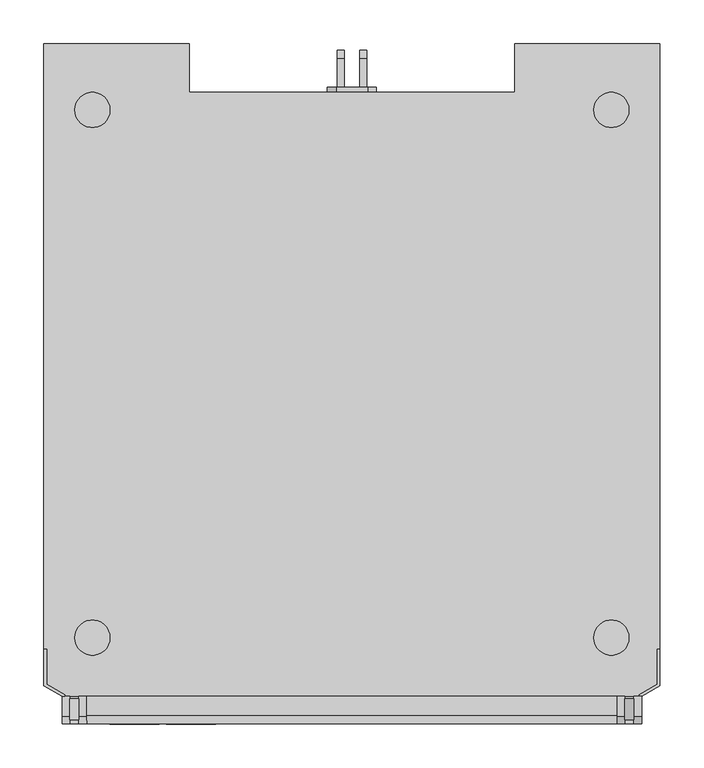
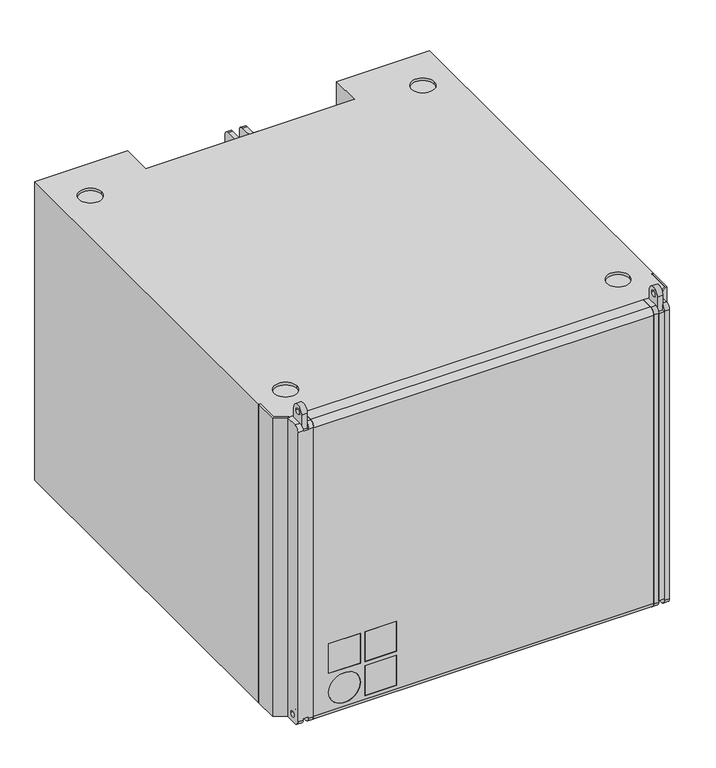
"""IFC4 building model written with IfcOpenShell, lengths in millimetres: proxy geometry, d&b SL-Series XSLi-SUB : XSLi-SUB."""

from ifc_helpers import new_model, si_unit, point, frame, frame_2d, origin, origin_with_axes, place, context, project, spatial, polyline, circle_curve, trimmed, segment, composite_curve, outline, extrude, source, transform, mapped, element, save
from ifc_brep_helpers import plane_surface, cylinder_surface, revolved_surface, advanced_brep


def communication_devices_f9809a49(model_context):
    return source(origin(), model_context, "Body", "SolidModel", [
        extrude(outline(polyline([(2810.5, -60.7494027), (2810.5, -29.2494027), (2820.5, -29.2494027), (2820.5, -60.7494027), (2810.5, -60.7494027)])), frame((0.0, 0.0, 16.6), z_axis=(0.0, 0.0, 1.0), x_axis=(1.0, 0.0, 0.0)), (0.0, 0.0, 1.0), 538.4),
        extrude(outline(composite_curve([segment(polyline([(-29.2494027, 565.0), (-29.2494027, 5.0), (-51.7494027, 5.0)]), True, "CONTINUOUS"), segment(trimmed(circle_curve(frame_2d((-51.7494027, 14.0)), 9.0), [point((-51.7494027, 5.0))], [point((-60.7494027, 14.0))], False, "CARTESIAN"), True, "CONTINUOUS"), segment(polyline([(-60.7494027, 14.0), (-60.7494027, 556.0)]), True, "CONTINUOUS"), segment(trimmed(circle_curve(frame_2d((-51.7494027, 556.0)), 9.0), [point((-60.7494027, 556.0))], [point((-51.7494027, 565.0))], False, "CARTESIAN"), True, "CONTINUOUS"), segment(polyline([(-51.7494027, 565.0), (-29.2494027, 565.0)]), True, "CONTINUOUS")], self_intersect=False)), frame((2801.5, 0.0, 0.0), z_axis=(1.0, 0.0, 0.0), x_axis=(0.0, 1.0, 0.0)), (0.0, 0.0, 1.0), 9.0),
        extrude(outline(composite_curve([segment(polyline([(-29.2494027, 565.0), (-29.2494027, 5.0), (-51.7494027, 5.0)]), True, "CONTINUOUS"), segment(trimmed(circle_curve(frame_2d((-51.7494027, 14.0)), 9.0), [point((-51.7494027, 5.0))], [point((-60.7494027, 14.0))], False, "CARTESIAN"), True, "CONTINUOUS"), segment(polyline([(-60.7494027, 14.0), (-60.7494027, 556.0)]), True, "CONTINUOUS"), segment(trimmed(circle_curve(frame_2d((-51.7494027, 556.0)), 9.0), [point((-60.7494027, 556.0))], [point((-51.7494027, 565.0))], False, "CARTESIAN"), True, "CONTINUOUS"), segment(polyline([(-51.7494027, 565.0), (-29.2494027, 565.0)]), True, "CONTINUOUS")], self_intersect=False), holes=[composite_curve([segment(trimmed(circle_curve(frame_2d((-43.9994027, 18.5163859)), 5.2), [point((-49.1994027, 18.5163859))], [point((-38.7994027, 18.5163859))], True, "CARTESIAN"), True, "CONTINUOUS"), segment(trimmed(circle_curve(frame_2d((-43.9994027, 18.5163859)), 5.2), [point((-38.7994027, 18.5163859))], [point((-49.1994027, 18.5163859))], True, "CARTESIAN"), True, "CONTINUOUS")], self_intersect=False)]), frame((2820.5, 0.0, 0.0), z_axis=(1.0, 0.0, 0.0), x_axis=(0.0, 1.0, 0.0)), (0.0, 0.0, 1.0), 9.0),
        extrude(outline(polyline([(2153.0, 24.2505973), (2153.0, -15.6816714), (2173.5, -27.5173519), (2173.5, -29.2494027), (2170.5, -29.2494027), (2150.0, -17.4137222), (2150.0, 24.2505973), (2153.0, 24.2505973)])), frame((0.0, 0.0, 5.0), z_axis=(0.0, 0.0, 1.0), x_axis=(1.0, 0.0, 0.0)), (0.0, 0.0, 1.0), 560.0),
        extrude(outline(polyline([(2847.0, 24.2505973), (2850.0, 24.2505973), (2850.0, -17.4137222), (2829.5, -29.2494027), (2826.5, -29.2494027), (2826.5, -27.5173519), (2847.0, -15.6816714), (2847.0, 24.2505973)])), frame((0.0, 0.0, 5.0), z_axis=(0.0, 0.0, 1.0), x_axis=(1.0, 0.0, 0.0)), (0.0, 0.0, 1.0), 560.0),
        extrude(outline(composite_curve([segment(trimmed(circle_curve(frame_2d((-43.9994027, 582.8033696)), 12.0), [point((-55.9994027, 582.8033696))], [point((-31.9994027, 582.8033696))], False, "CARTESIAN"), True, "CONTINUOUS"), segment(polyline([(-31.9994027, 582.8033696), (-31.9994027, 555.0), (-55.9994027, 555.0), (-55.9994027, 582.8033696)]), True, "CONTINUOUS")], self_intersect=False), holes=[composite_curve([segment(trimmed(circle_curve(frame_2d((-43.9994027, 582.8033696)), 5.15), [point((-49.1494027, 582.8033696))], [point((-38.8494027, 582.8033696))], True, "CARTESIAN"), True, "CONTINUOUS"), segment(trimmed(circle_curve(frame_2d((-43.9994027, 582.8033696)), 5.15), [point((-38.8494027, 582.8033696))], [point((-49.1494027, 582.8033696))], True, "CARTESIAN"), True, "CONTINUOUS")], self_intersect=False)]), frame((2810.5, 0.0, 0.0), z_axis=(1.0, 0.0, 0.0), x_axis=(0.0, 1.0, 0.0)), (0.0, 0.0, 1.0), 10.0),
        extrude(outline(composite_curve([segment(trimmed(circle_curve(frame_2d((-43.9994027, 582.8033696)), 12.0), [point((-55.9994027, 582.8033696))], [point((-31.9994027, 582.8033696))], False, "CARTESIAN"), True, "CONTINUOUS"), segment(polyline([(-31.9994027, 582.8033696), (-31.9994027, 555.0), (-55.9994027, 555.0), (-55.9994027, 582.8033696)]), True, "CONTINUOUS")], self_intersect=False), holes=[composite_curve([segment(trimmed(circle_curve(frame_2d((-43.9994027, 582.8033696)), 5.15), [point((-49.1494027, 582.8033696))], [point((-38.8494027, 582.8033696))], True, "CARTESIAN"), True, "CONTINUOUS"), segment(trimmed(circle_curve(frame_2d((-43.9994027, 582.8033696)), 5.15), [point((-38.8494027, 582.8033696))], [point((-49.1494027, 582.8033696))], True, "CARTESIAN"), True, "CONTINUOUS")], self_intersect=False)]), frame((2179.5, 0.0, 0.0), z_axis=(1.0, 0.0, 0.0), x_axis=(0.0, 1.0, 0.0)), (0.0, 0.0, 1.0), 10.0),
        advanced_brep(
        [(2281.0, -50.7494027, 141.5), (2225.0, -50.7494027, 141.5), (2225.0, -50.7494027, 85.5), (2281.0, -50.7494027, 85.5), (2345.0, -50.7494027, 141.5), (2289.0, -50.7494027, 141.5), (2289.0, -50.7494027, 85.5), (2345.0, -50.7494027, 85.5), (2345.0, -50.7494027, 77.5), (2289.0, -50.7494027, 77.5), (2289.0, -50.7494027, 21.5), (2345.0, -50.7494027, 21.5), (2225.0, -50.7494027, 49.5), (2281.0, -50.7494027, 49.5), (2281.0, -60.7494027, 85.5), (2281.0, -60.7494027, 141.5), (2225.0, -60.7494027, 85.5), (2225.0, -60.7494027, 141.5), (2345.0, -60.7494027, 85.5), (2345.0, -60.7494027, 141.5), (2289.0, -60.7494027, 85.5), (2289.0, -60.7494027, 141.5), (2345.0, -60.7494027, 21.5), (2345.0, -60.7494027, 77.5), (2289.0, -60.7494027, 21.5), (2289.0, -60.7494027, 77.5), (2281.0, -60.7494027, 49.5), (2225.0, -60.7494027, 49.5), (2801.5, -29.2494027, 5.0), (2801.5, -29.2494027, 565.0), (2801.5, -50.7494027, 565.0), (2801.5, -60.7494027, 555.0), (2801.5, -60.7494027, 15.0), (2801.5, -50.7494027, 5.0), (2198.5, -29.2494027, 5.0), (2198.5, -50.7494027, 5.0), (2198.5, -60.7494027, 15.0), (2198.5, -60.7494027, 555.0), (2198.5, -50.7494027, 565.0), (2198.5, -29.2494027, 565.0)],
        [
            (0, 1),
            (1, 2),
            (2, 3),
            (3, 0),
            (4, 5),
            (5, 6),
            (6, 7),
            (7, 4),
            (8, 9),
            (9, 10),
            (10, 11),
            (11, 8),
            (12, 13, circle_curve(frame((2253.0, -50.7494027, 49.5), z_axis=(0.0, -1.0, 0.0), x_axis=(1.0, 0.0, 0.0)), 28.0)),
            (13, 12, circle_curve(frame((2253.0, -50.7494027, 49.5), z_axis=(0.0, -1.0, 0.0), x_axis=(1.0, 0.0, 0.0)), 28.0)),
            (3, 14),
            (14, 15),
            (15, 0),
            (2, 16),
            (16, 14),
            (1, 17),
            (17, 16),
            (15, 17),
            (7, 18),
            (18, 19),
            (19, 4),
            (6, 20),
            (20, 18),
            (5, 21),
            (21, 20),
            (19, 21),
            (11, 22),
            (22, 23),
            (23, 8),
            (10, 24),
            (24, 22),
            (9, 25),
            (25, 24),
            (23, 25),
            (13, 26),
            (26, 27, circle_curve(frame((2253.0, -60.7494027, 49.5), z_axis=(0.0, -1.0, 0.0), x_axis=(1.0, 0.0, 0.0)), 28.0)),
            (27, 12),
            (27, 26, circle_curve(frame((2253.0, -60.7494027, 49.5), z_axis=(0.0, -1.0, 0.0), x_axis=(1.0, 0.0, 0.0)), 28.0)),
            (28, 29),
            (29, 30),
            (30, 31, circle_curve(frame((2801.5, -50.7494027, 555.0), z_axis=(1.0, 0.0, 0.0), x_axis=(0.0, 1.0, 0.0)), 10.0)),
            (31, 32),
            (32, 33, circle_curve(frame((2801.5, -50.7494027, 15.0), z_axis=(1.0, 0.0, 0.0), x_axis=(0.0, 1.0, 0.0)), 10.0)),
            (33, 28),
            (34, 35),
            (35, 36, circle_curve(frame((2198.5, -50.7494027, 15.0), z_axis=(-1.0, 0.0, 0.0), x_axis=(0.0, 1.0, 0.0)), 10.0)),
            (36, 37),
            (37, 38, circle_curve(frame((2198.5, -50.7494027, 555.0), z_axis=(-1.0, 0.0, 0.0), x_axis=(0.0, 1.0, 0.0)), 10.0)),
            (38, 39),
            (39, 34),
            (28, 34),
            (39, 29),
            (38, 30),
            (37, 31),
            (36, 32),
            (35, 33),
        ],
        [
            plane_surface(frame((2281.0, -50.7494027, 131.0), z_axis=(0.0, -1.0, 0.0), x_axis=(0.0, 0.0, -1.0))),
            plane_surface(frame((2281.0, -50.7494027, 141.5), z_axis=(-1.0, 0.0, 0.0), x_axis=(0.0, -1.0, 0.0))),
            plane_surface(frame((2281.0, -50.7494027, 85.5), z_axis=(0.0, 0.0, 1.0), x_axis=(0.0, -1.0, 0.0))),
            plane_surface(frame((2225.0, -50.7494027, 85.5), z_axis=(1.0, 0.0, 0.0), x_axis=(0.0, -1.0, 0.0))),
            plane_surface(frame((2225.0, -50.7494027, 141.5), z_axis=(0.0, 0.0, -1.0), x_axis=(0.0, -1.0, 0.0))),
            plane_surface(frame((2345.0, -50.7494027, 141.5), z_axis=(-1.0, 0.0, 0.0), x_axis=(0.0, -1.0, 0.0))),
            plane_surface(frame((2345.0, -50.7494027, 85.5), z_axis=(0.0, 0.0, 1.0), x_axis=(0.0, -1.0, 0.0))),
            plane_surface(frame((2289.0, -50.7494027, 85.5), z_axis=(1.0, 0.0, 0.0), x_axis=(0.0, -1.0, 0.0))),
            plane_surface(frame((2289.0, -50.7494027, 141.5), z_axis=(0.0, 0.0, -1.0), x_axis=(0.0, -1.0, 0.0))),
            plane_surface(frame((2345.0, -50.7494027, 77.5), z_axis=(-1.0, 0.0, 0.0), x_axis=(0.0, -1.0, 0.0))),
            plane_surface(frame((2345.0, -50.7494027, 21.5), z_axis=(0.0, 0.0, 1.0), x_axis=(0.0, -1.0, 0.0))),
            plane_surface(frame((2289.0, -50.7494027, 21.5), z_axis=(1.0, 0.0, 0.0), x_axis=(0.0, -1.0, 0.0))),
            plane_surface(frame((2289.0, -50.7494027, 77.5), z_axis=(0.0, 0.0, -1.0), x_axis=(0.0, -1.0, 0.0))),
            revolved_surface(polyline([(2281.0, -50.7494027, 49.5), (2281.0, -60.7494027, 49.5)]), (2253.0, -60.7494027, 49.5), (0.0, 1.0, 0.0)),
            plane_surface(frame((2801.5, -29.2494027, 89.9836141), z_axis=(1.0, 0.0, 0.0), x_axis=(0.0, 0.0, 1.0))),
            plane_surface(frame((2198.5, -29.2494027, 89.9836141), z_axis=(-1.0, 0.0, 0.0), x_axis=(0.0, 0.0, -1.0))),
            plane_surface(frame((2801.5, -29.2494027, 5.0), z_axis=(0.0, 1.0, 0.0), x_axis=(-1.0, 0.0, 0.0))),
            plane_surface(frame((2801.5, -29.2494027, 565.0), z_axis=(0.0, 0.0, 1.0), x_axis=(-1.0, 0.0, 0.0))),
            cylinder_surface(frame((2198.5, -50.7494027, 555.0), z_axis=(1.0, 0.0, 0.0), x_axis=(0.0, 1.0, 0.0)), 10.0),
            plane_surface(frame((2801.5, -60.7494027, 555.0), z_axis=(0.0, -1.0, 0.0), x_axis=(-1.0, 0.0, 0.0))),
            cylinder_surface(frame((2198.5, -50.7494027, 15.0), z_axis=(1.0, 0.0, 0.0), x_axis=(0.0, 1.0, 0.0)), 10.0),
            plane_surface(frame((2801.5, -50.7494027, 5.0), z_axis=(0.0, 0.0, -1.0), x_axis=(-1.0, 0.0, 0.0))),
        ],
        [
            (0, [[1, 2, 3, 4]]),
            (0, [[5, 6, 7, 8]]),
            (0, [[9, 10, 11, 12]]),
            (0, [[13, 14]]),
            (1, [[-4, 15, 16, 17]]),
            (2, [[-3, 18, 19, -15]]),
            (3, [[-2, 20, 21, -18]]),
            (4, [[-1, -17, 22, -20]]),
            (5, [[-8, 23, 24, 25]]),
            (6, [[-7, 26, 27, -23]]),
            (7, [[-6, 28, 29, -26]]),
            (8, [[-5, -25, 30, -28]]),
            (9, [[-12, 31, 32, 33]]),
            (10, [[-11, 34, 35, -31]]),
            (11, [[-10, 36, 37, -34]]),
            (12, [[-9, -33, 38, -36]]),
            (13, [[-14, 39, 40, 41]]),
            (13, [[-13, -41, 42, -39]]),
            (14, [[43, 44, 45, 46, 47, 48]]),
            (15, [[49, 50, 51, 52, 53, 54]]),
            (16, [[-43, 55, -54, 56]]),
            (17, [[-44, -56, -53, 57]]),
            (18, [[-45, -57, -52, 58]]),
            (19, [[-46, -58, -51, 59], [-16, -19, -21, -22], [-24, -27, -29, -30], [-32, -35, -37, -38], [-40, -42]]),
            (20, [[-47, -59, -50, 60]]),
            (21, [[-48, -60, -49, -55]]),
        ],
    ),
        advanced_brep(
        [(2198.5, -29.2494027, 565.0), (2198.5, -51.7494027, 565.0), (2198.5, -60.7494027, 556.0), (2198.5, -60.7494027, 14.0), (2198.5, -51.7494027, 5.0), (2198.5, -29.2494027, 5.0), (2189.5, -29.2494027, 5.0), (2189.5, -51.7494027, 5.0), (2189.5, -60.7494027, 14.0), (2189.5, -60.7494027, 16.6), (2189.5, -29.2494027, 16.6), (2189.5, -60.7494027, 556.0), (2189.5, -51.7494027, 565.0), (2189.5, -29.2494027, 565.0), (2189.5, -29.2494027, 555.0), (2189.5, -60.7494027, 555.0), (2179.5, -60.7494027, 555.0), (2179.5, -60.7494027, 556.0), (2170.5, -60.7494027, 556.0), (2170.5, -60.7494027, 14.0), (2179.5, -60.7494027, 14.0), (2179.5, -60.7494027, 16.6), (2179.5, -29.2494027, 16.6), (2179.5, -29.2494027, 5.0), (2170.5, -29.2494027, 5.0), (2170.5, -29.2494027, 565.0), (2179.5, -29.2494027, 565.0), (2179.5, -29.2494027, 555.0), (2179.5, -48.8333933, 16.6), (2179.5, -39.1654121, 16.6), (2179.5, -51.7494027, 565.0), (2179.5, -51.7494027, 5.0), (2170.5, -51.7494027, 5.0), (2170.5, -51.7494027, 565.0), (2170.5, -49.1994027, 18.5163859), (2170.5, -38.7994027, 18.5163859), (2179.5, -38.7994027, 18.5163859), (2179.5, -49.1994027, 18.5163859)],
        [
            (0, 1),
            (1, 2, circle_curve(frame((2198.5, -51.7494027, 556.0), z_axis=(1.0, 0.0, 0.0), x_axis=(0.0, 1.0, 0.0)), 9.0)),
            (2, 3),
            (3, 4, circle_curve(frame((2198.5, -51.7494027, 14.0), z_axis=(1.0, 0.0, 0.0), x_axis=(0.0, 1.0, 0.0)), 9.0)),
            (4, 5),
            (5, 0),
            (6, 7),
            (7, 8, circle_curve(frame((2189.5, -51.7494027, 14.0), z_axis=(-1.0, 0.0, 0.0), x_axis=(0.0, 1.0, 0.0)), 9.0)),
            (8, 9),
            (9, 10),
            (10, 6),
            (11, 12, circle_curve(frame((2189.5, -51.7494027, 556.0), z_axis=(-1.0, 0.0, 0.0), x_axis=(0.0, 1.0, 0.0)), 9.0)),
            (12, 13),
            (13, 14),
            (14, 15),
            (15, 11),
            (0, 13),
            (12, 1),
            (11, 2),
            (15, 16),
            (16, 17),
            (17, 18),
            (18, 19),
            (19, 20),
            (20, 21),
            (21, 9),
            (8, 3),
            (7, 4),
            (6, 5),
            (10, 22),
            (22, 23),
            (23, 24),
            (24, 25),
            (25, 26),
            (26, 27),
            (27, 14),
            (27, 16),
            (21, 28),
            (28, 29),
            (29, 22),
            (26, 30),
            (30, 17, circle_curve(frame((2179.5, -51.7494027, 556.0), z_axis=(1.0, 0.0, 0.0), x_axis=(0.0, 1.0, 0.0)), 9.0)),
            (20, 31, circle_curve(frame((2179.5, -51.7494027, 14.0), z_axis=(1.0, 0.0, 0.0), x_axis=(0.0, 1.0, 0.0)), 9.0)),
            (31, 23),
            (29, 28, circle_curve(frame((2179.5, -43.9994027, 18.5163859), z_axis=(-1.0, 0.0, 0.0), x_axis=(0.0, 1.0, 0.0)), 5.2)),
            (24, 32),
            (32, 19, circle_curve(frame((2170.5, -51.7494027, 14.0), z_axis=(-1.0, 0.0, 0.0), x_axis=(0.0, 1.0, 0.0)), 9.0)),
            (18, 33, circle_curve(frame((2170.5, -51.7494027, 556.0), z_axis=(-1.0, 0.0, 0.0), x_axis=(0.0, 1.0, 0.0)), 9.0)),
            (33, 25),
            (34, 35, circle_curve(frame((2170.5, -43.9994027, 18.5163859), z_axis=(1.0, 0.0, 0.0), x_axis=(0.0, 1.0, 0.0)), 5.2)),
            (35, 34, circle_curve(frame((2170.5, -43.9994027, 18.5163859), z_axis=(1.0, 0.0, 0.0), x_axis=(0.0, 1.0, 0.0)), 5.2)),
            (33, 30),
            (31, 32),
            (35, 36),
            (36, 37, circle_curve(frame((2179.5, -43.9994027, 18.5163859), z_axis=(1.0, 0.0, 0.0), x_axis=(0.0, 1.0, 0.0)), 5.2)),
            (37, 34),
            (37, 28, circle_curve(frame((2179.5, -43.9994027, 18.5163859), z_axis=(1.0, 0.0, 0.0), x_axis=(0.0, 1.0, 0.0)), 5.2)),
            (29, 36, circle_curve(frame((2179.5, -43.9994027, 18.5163859), z_axis=(1.0, 0.0, 0.0), x_axis=(0.0, 1.0, 0.0)), 5.2)),
        ],
        [
            plane_surface(frame((2198.5, -51.2077891, 565.0), z_axis=(1.0, 0.0, 0.0), x_axis=(0.0, -1.0, 0.0))),
            plane_surface(frame((2189.5, -51.2077891, 565.0), z_axis=(-1.0, 0.0, 0.0), x_axis=(0.0, 1.0, 0.0))),
            plane_surface(frame((2198.5, -29.2494027, 565.0), z_axis=(0.0, 0.0, 1.0), x_axis=(-1.0, 0.0, 0.0))),
            cylinder_surface(frame((2189.5, -51.7494027, 556.0), z_axis=(1.0, 0.0, 0.0), x_axis=(0.0, 1.0, 0.0)), 9.0),
            plane_surface(frame((2198.5, -60.7494027, 556.0), z_axis=(0.0, -1.0, 0.0), x_axis=(-1.0, 0.0, 0.0))),
            cylinder_surface(frame((2189.5, -51.7494027, 14.0), z_axis=(1.0, 0.0, 0.0), x_axis=(0.0, 1.0, 0.0)), 9.0),
            plane_surface(frame((2198.5, -51.7494027, 5.0), z_axis=(0.0, 0.0, -1.0), x_axis=(-1.0, 0.0, 0.0))),
            plane_surface(frame((2198.5, -29.2494027, 5.0), z_axis=(0.0, 1.0, 0.0), x_axis=(-1.0, 0.0, 0.0))),
            plane_surface(frame((2189.5, -29.2494027, 555.0), z_axis=(0.0, 0.0, 1.0), x_axis=(-1.0, 0.0, 0.0))),
            plane_surface(frame((2189.5, -60.7494027, 16.6), z_axis=(0.0, 0.0, -1.0), x_axis=(-1.0, 0.0, 0.0))),
            plane_surface(frame((2179.5, -51.2077891, 565.0), z_axis=(1.0, 0.0, 0.0), x_axis=(0.0, -1.0, 0.0))),
            plane_surface(frame((2170.5, -51.2077891, 565.0), z_axis=(-1.0, 0.0, 0.0), x_axis=(0.0, 1.0, 0.0))),
            plane_surface(frame((2179.5, -29.2494027, 565.0), z_axis=(0.0, 0.0, 1.0), x_axis=(-1.0, 0.0, 0.0))),
            plane_surface(frame((2179.5, -51.7494027, 5.0), z_axis=(0.0, 0.0, -1.0), x_axis=(-1.0, 0.0, 0.0))),
            revolved_surface(polyline([(2170.5, -38.799402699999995, 18.5163859), (2179.5, -38.799402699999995, 18.5163859)]), (2500.0, -43.9994027, 18.5163859), (-1.0, 0.0, 0.0)),
            cylinder_surface(frame((2170.5, -51.7494027, 556.0), z_axis=(1.0, 0.0, 0.0), x_axis=(0.0, 1.0, 0.0)), 9.0),
            cylinder_surface(frame((2170.5, -51.7494027, 14.0), z_axis=(1.0, 0.0, 0.0), x_axis=(0.0, 1.0, 0.0)), 9.0),
            plane_surface(frame((2179.5, -60.7494027, 97.5281973), z_axis=(-1.0, 0.0, 0.0), x_axis=(0.0, 0.0, 1.0))),
        ],
        [
            (0, [[1, 2, 3, 4, 5, 6]]),
            (1, [[7, 8, 9, 10, 11]]),
            (1, [[12, 13, 14, 15, 16]]),
            (2, [[-1, 17, -13, 18]]),
            (3, [[-2, -18, -12, 19]]),
            (4, [[-3, -19, -16, 20, 21, 22, 23, 24, 25, 26, -9, 27]]),
            (5, [[-4, -27, -8, 28]]),
            (6, [[-5, -28, -7, 29]]),
            (7, [[-6, -29, -11, 30, 31, 32, 33, 34, 35, 36, -14, -17]]),
            (8, [[-20, -15, -36, 37]]),
            (9, [[-26, 38, 39, 40, -30, -10]]),
            (10, [[41, 42, -21, -37, -35]]),
            (10, [[43, 44, -31, -40, 45, -38, -25]]),
            (11, [[-33, 46, 47, -23, 48, 49], [50, 51]]),
            (12, [[-41, -34, -49, 52]]),
            (13, [[-44, 53, -46, -32]]),
            (14, [[-51, 54, 55, 56]]),
            (14, [[-50, -56, 57, -45, 58, -54]]),
            (15, [[-42, -52, -48, -22]]),
            (16, [[-43, -24, -47, -53]]),
            (17, [[-39, -57, -55, -58]]),
        ],
    ),
        extrude(outline(composite_curve([segment(trimmed(circle_curve(frame_2d((2795.0, 637.2505973)), 20.0), [point((2815.0, 637.2505973))], [point((2775.0, 637.2505973))], False, "CARTESIAN"), True, "CONTINUOUS"), segment(trimmed(circle_curve(frame_2d((2795.0, 637.2505973)), 20.0), [point((2775.0, 637.2505973))], [point((2815.0, 637.2505973))], False, "CARTESIAN"), True, "CONTINUOUS")], self_intersect=False)), origin_with_axes(), (0.0, 0.0, 1.0), 5.0),
        extrude(outline(composite_curve([segment(trimmed(circle_curve(frame_2d((2205.0, 637.2505973)), 20.0), [point((2185.0, 637.2505973))], [point((2225.0, 637.2505973))], False, "CARTESIAN"), True, "CONTINUOUS"), segment(trimmed(circle_curve(frame_2d((2205.0, 637.2505973)), 20.0), [point((2225.0, 637.2505973))], [point((2185.0, 637.2505973))], False, "CARTESIAN"), True, "CONTINUOUS")], self_intersect=False)), origin_with_axes(), (0.0, 0.0, 1.0), 5.0),
        extrude(outline(composite_curve([segment(trimmed(circle_curve(frame_2d((2795.0, 37.2505973)), 20.0), [point((2815.0, 37.2505973))], [point((2775.0, 37.2505973))], False, "CARTESIAN"), True, "CONTINUOUS"), segment(trimmed(circle_curve(frame_2d((2795.0, 37.2505973)), 20.0), [point((2775.0, 37.2505973))], [point((2815.0, 37.2505973))], False, "CARTESIAN"), True, "CONTINUOUS")], self_intersect=False)), origin_with_axes(), (0.0, 0.0, 1.0), 5.0),
        extrude(outline(composite_curve([segment(trimmed(circle_curve(frame_2d((2205.0, 37.2505973)), 20.0), [point((2185.0, 37.2505973))], [point((2225.0, 37.2505973))], False, "CARTESIAN"), True, "CONTINUOUS"), segment(trimmed(circle_curve(frame_2d((2205.0, 37.2505973)), 20.0), [point((2225.0, 37.2505973))], [point((2185.0, 37.2505973))], False, "CARTESIAN"), True, "CONTINUOUS")], self_intersect=False)), origin_with_axes(), (0.0, 0.0, 1.0), 5.0),
        extrude(outline(polyline([(2225.0, -50.7494027), (2281.0, -50.7494027), (2281.0, -60.7494027), (2225.0, -60.7494027), (2225.0, -50.7494027)])), frame((0.0, 0.0, 85.5), z_axis=(0.0, 0.0, 1.0), x_axis=(1.0, 0.0, 0.0)), (0.0, 0.0, 1.0), 56.0),
        extrude(outline(polyline([(2289.0, -50.7494027), (2345.0, -50.7494027), (2345.0, -60.7494027), (2289.0, -60.7494027), (2289.0, -50.7494027)])), frame((0.0, 0.0, 85.5), z_axis=(0.0, 0.0, 1.0), x_axis=(1.0, 0.0, 0.0)), (0.0, 0.0, 1.0), 56.0),
        extrude(outline(polyline([(2289.0, -50.7494027), (2345.0, -50.7494027), (2345.0, -60.7494027), (2289.0, -60.7494027), (2289.0, -50.7494027)])), frame((0.0, 0.0, 21.5), z_axis=(0.0, 0.0, 1.0), x_axis=(1.0, 0.0, 0.0)), (0.0, 0.0, 1.0), 56.0),
        extrude(outline(composite_curve([segment(trimmed(circle_curve(frame_2d((49.5, 2253.0)), 28.0), [point((49.5, 2225.0))], [point((49.5, 2281.0))], False, "CARTESIAN"), True, "CONTINUOUS"), segment(trimmed(circle_curve(frame_2d((49.5, 2253.0)), 28.0), [point((49.5, 2281.0))], [point((49.5, 2225.0))], False, "CARTESIAN"), True, "CONTINUOUS")], self_intersect=False)), frame((0.0, -60.7494027, 0.0), z_axis=(0.0, 1.0, 0.0), x_axis=(0.0, 0.0, 1.0)), (0.0, 0.0, 1.0), 10.0),
        advanced_brep(
        [(2850.0, 712.2505973, 5.0), (2850.0, 24.2505973, 5.0), (2847.0, 24.2505973, 5.0), (2847.0, -15.6816714, 5.0), (2826.5, -27.5173519, 5.0), (2826.5, -29.2494027, 5.0), (2173.5, -29.2494027, 5.0), (2173.5, -27.5173519, 5.0), (2153.0, -15.6816714, 5.0), (2153.0, 24.2505973, 5.0), (2150.0, 24.2505973, 5.0), (2150.0, 712.2505973, 5.0), (2315.0, 712.2505973, 5.0), (2315.0, 657.2503532, 5.0), (2685.0, 657.2503532, 5.0), (2685.0, 712.2505973, 5.0), (2315.0, 712.2505973, 565.0), (2150.0, 712.2505973, 565.0), (2150.0, 24.2505973, 565.0), (2153.0, 24.2505973, 565.0), (2153.0, -15.6816714, 565.0), (2173.5, -27.5173519, 565.0), (2173.5, -29.2494027, 565.0), (2826.5, -29.2494027, 565.0), (2826.5, -27.5173519, 565.0), (2847.0, -15.6816714, 565.0), (2847.0, 24.2505973, 565.0), (2850.0, 24.2505973, 565.0), (2850.0, 712.2505973, 565.0), (2685.0, 712.2505973, 565.0), (2685.0, 657.2503532, 565.0), (2315.0, 657.2503532, 565.0), (2775.0, 637.2505973, 565.0), (2815.0, 637.2505973, 565.0), (2225.0, 637.2505973, 565.0), (2185.0, 637.2505973, 565.0), (2775.0, 37.2505973, 565.0), (2815.0, 37.2505973, 565.0), (2225.0, 37.2505973, 565.0), (2185.0, 37.2505973, 565.0), (2782.0, 707.2505973, 232.5000305), (2774.0, 707.2505973, 224.5000305), (2726.0, 707.2505973, 224.5000305), (2718.0, 707.2505973, 232.5000305), (2718.0, 707.2505973, 337.500061), (2726.0, 707.2505973, 345.500061), (2774.0, 707.2505973, 345.500061), (2782.0, 707.2505973, 337.500061), (2218.0, 707.2505973, 232.5000305), (2218.0, 707.2505973, 337.500061), (2226.0, 707.2505973, 345.500061), (2274.0, 707.2505973, 345.500061), (2282.0, 707.2505973, 337.500061), (2282.0, 707.2505973, 232.5000305), (2274.0, 707.2505973, 224.5000305), (2226.0, 707.2505973, 224.5000305), (2782.0, 712.2505973, 232.5000305), (2774.0, 712.2505973, 224.5000305), (2726.0, 712.2505973, 224.5000305), (2718.0, 712.2505973, 232.5000305), (2718.0, 712.2505973, 337.500061), (2726.0, 712.2505973, 345.500061), (2774.0, 712.2505973, 345.500061), (2782.0, 712.2505973, 337.500061), (2461.0, 657.2503532, 555.0), (2461.0, 657.2503532, 461.160254), (2461.0, 632.2503532, 461.160254), (2461.0, 632.2503532, 555.0), (2685.0, 657.2503532, 555.0), (2539.0, 657.2503532, 555.0), (2539.0, 657.2503532, 461.160254), (2685.0, 657.2503532, 376.8671147), (2685.0, 657.2503532, 368.2068607), (2539.0, 657.2503532, 452.5), (2539.0, 657.2503532, 117.5), (2685.0, 657.2503532, 201.7931393), (2685.0, 657.2503532, 193.1328853), (2539.0, 657.2503532, 108.839746), (2539.0, 657.2503532, 15.0), (2685.0, 657.2503532, 15.0), (2315.0, 657.2503532, 15.0), (2461.0, 657.2503532, 15.0), (2461.0, 657.2503532, 108.839746), (2315.0, 657.2503532, 193.1328853), (2315.0, 657.2503532, 201.7931393), (2461.0, 657.2503532, 117.5), (2461.0, 657.2503532, 452.5), (2315.0, 657.2503532, 368.2068607), (2315.0, 657.2503532, 376.8671147), (2315.0, 657.2503532, 555.0), (2218.0, 712.2505973, 337.500061), (2218.0, 712.2505973, 232.5000305), (2226.0, 712.2505973, 224.5000305), (2274.0, 712.2505973, 224.5000305), (2282.0, 712.2505973, 232.5000305), (2282.0, 712.2505973, 337.500061), (2274.0, 712.2505973, 345.500061), (2226.0, 712.2505973, 345.500061), (2685.0, 632.2503532, 15.0), (2685.0, 632.2503532, 193.1328853), (2685.0, 632.2503532, 201.7931393), (2685.0, 632.2503532, 368.2068607), (2685.0, 632.2503532, 376.8671147), (2685.0, 632.2503532, 555.0), (2539.0, 632.2503532, 15.0), (2539.0, 632.2503532, 108.839746), (2539.0, 632.2503532, 117.5), (2539.0, 632.2503532, 452.5), (2539.0, 632.2503532, 461.160254), (2539.0, 632.2503532, 555.0), (2315.0, 632.2503532, 376.8671147), (2315.0, 632.2503532, 555.0), (2315.0, 632.2503532, 201.7931393), (2315.0, 632.2503532, 368.2068607), (2461.0, 632.2503532, 452.5), (2461.0, 632.2503532, 117.5), (2315.0, 632.2503532, 15.0), (2315.0, 632.2503532, 193.1328853), (2461.0, 632.2503532, 108.839746), (2461.0, 632.2503532, 15.0), (2815.0, 637.2505973, 560.0), (2775.0, 637.2505973, 560.0), (2185.0, 637.2505973, 560.0), (2225.0, 637.2505973, 560.0), (2815.0, 37.2505973, 560.0), (2775.0, 37.2505973, 560.0), (2225.0, 37.2505973, 560.0), (2185.0, 37.2505973, 560.0)],
        [
            (0, 1),
            (1, 2),
            (2, 3),
            (3, 4),
            (4, 5),
            (5, 6),
            (6, 7),
            (7, 8),
            (8, 9),
            (9, 10),
            (10, 11),
            (11, 12),
            (12, 13),
            (13, 14),
            (14, 15),
            (15, 0),
            (16, 17),
            (17, 18),
            (18, 19),
            (19, 20),
            (20, 21),
            (21, 22),
            (22, 23),
            (23, 24),
            (24, 25),
            (25, 26),
            (26, 27),
            (27, 28),
            (28, 29),
            (29, 30),
            (30, 31),
            (31, 16),
            (32, 33, circle_curve(frame((2795.0, 637.2505973, 565.0), z_axis=(0.0, 0.0, -1.0), x_axis=(-1.0, 0.0, 0.0)), 20.0)),
            (33, 32, circle_curve(frame((2795.0, 637.2505973, 565.0), z_axis=(0.0, 0.0, -1.0), x_axis=(-1.0, 0.0, 0.0)), 20.0)),
            (34, 35, circle_curve(frame((2205.0, 637.2505973, 565.0), z_axis=(0.0, 0.0, -1.0), x_axis=(1.0, 0.0, 0.0)), 20.0)),
            (35, 34, circle_curve(frame((2205.0, 637.2505973, 565.0), z_axis=(0.0, 0.0, -1.0), x_axis=(1.0, 0.0, 0.0)), 20.0)),
            (36, 37, circle_curve(frame((2795.0, 37.2505973, 565.0), z_axis=(0.0, 0.0, -1.0), x_axis=(-1.0, 0.0, 0.0)), 20.0)),
            (37, 36, circle_curve(frame((2795.0, 37.2505973, 565.0), z_axis=(0.0, 0.0, -1.0), x_axis=(-1.0, 0.0, 0.0)), 20.0)),
            (38, 39, circle_curve(frame((2205.0, 37.2505973, 565.0), z_axis=(0.0, 0.0, -1.0), x_axis=(1.0, 0.0, 0.0)), 20.0)),
            (39, 38, circle_curve(frame((2205.0, 37.2505973, 565.0), z_axis=(0.0, 0.0, -1.0), x_axis=(1.0, 0.0, 0.0)), 20.0)),
            (0, 28),
            (27, 1),
            (26, 2),
            (40, 41, circle_curve(frame((2774.0, 707.2505973, 232.5000305), z_axis=(0.0, 1.0, 0.0), x_axis=(-1.0, 0.0, 0.0)), 8.0)),
            (41, 42),
            (42, 43, circle_curve(frame((2726.0, 707.2505973, 232.5000305), z_axis=(0.0, 1.0, 0.0), x_axis=(-1.0, 0.0, 0.0)), 8.0)),
            (43, 44),
            (44, 45, circle_curve(frame((2726.0, 707.2505973, 337.500061), z_axis=(0.0, 1.0, 0.0), x_axis=(-1.0, 0.0, 0.0)), 8.0)),
            (45, 46),
            (46, 47, circle_curve(frame((2774.0, 707.2505973, 337.500061), z_axis=(0.0, 1.0, 0.0), x_axis=(-1.0, 0.0, 0.0)), 8.0)),
            (47, 40),
            (48, 49),
            (49, 50, circle_curve(frame((2226.0, 707.2505973, 337.500061), z_axis=(0.0, 1.0, 0.0), x_axis=(1.0, 0.0, 0.0)), 8.0)),
            (50, 51),
            (51, 52, circle_curve(frame((2274.0, 707.2505973, 337.500061), z_axis=(0.0, 1.0, 0.0), x_axis=(1.0, 0.0, 0.0)), 8.0)),
            (52, 53),
            (53, 54, circle_curve(frame((2274.0, 707.2505973, 232.5000305), z_axis=(0.0, 1.0, 0.0), x_axis=(1.0, 0.0, 0.0)), 8.0)),
            (54, 55),
            (55, 48, circle_curve(frame((2226.0, 707.2505973, 232.5000305), z_axis=(0.0, 1.0, 0.0), x_axis=(1.0, 0.0, 0.0)), 8.0)),
            (40, 56),
            (56, 57, circle_curve(frame((2774.0, 712.2505973, 232.5000305), z_axis=(0.0, 1.0, 0.0), x_axis=(-1.0, 0.0, 0.0)), 8.0)),
            (57, 41),
            (57, 58),
            (58, 42),
            (58, 59, circle_curve(frame((2726.0, 712.2505973, 232.5000305), z_axis=(0.0, 1.0, 0.0), x_axis=(-1.0, 0.0, 0.0)), 8.0)),
            (59, 43),
            (59, 60),
            (60, 44),
            (60, 61, circle_curve(frame((2726.0, 712.2505973, 337.500061), z_axis=(0.0, 1.0, 0.0), x_axis=(-1.0, 0.0, 0.0)), 8.0)),
            (61, 45),
            (61, 62),
            (62, 46),
            (62, 63, circle_curve(frame((2774.0, 712.2505973, 337.500061), z_axis=(0.0, 1.0, 0.0), x_axis=(-1.0, 0.0, 0.0)), 8.0)),
            (63, 47),
            (63, 56),
            (64, 65),
            (65, 66),
            (66, 67),
            (67, 64),
            (30, 68),
            (68, 69),
            (69, 70),
            (70, 71),
            (71, 72),
            (72, 73),
            (73, 74),
            (74, 75),
            (75, 76),
            (76, 77),
            (77, 78),
            (78, 79),
            (79, 14),
            (13, 80),
            (80, 81),
            (81, 82),
            (82, 83),
            (83, 84),
            (84, 85),
            (85, 86),
            (86, 87),
            (87, 88),
            (88, 65),
            (64, 89),
            (89, 31),
            (11, 17),
            (16, 12),
            (90, 91),
            (91, 92, circle_curve(frame((2226.0, 712.2505973, 232.5000305), z_axis=(0.0, -1.0, 0.0), x_axis=(1.0, 0.0, 0.0)), 8.0)),
            (92, 93),
            (93, 94, circle_curve(frame((2274.0, 712.2505973, 232.5000305), z_axis=(0.0, -1.0, 0.0), x_axis=(1.0, 0.0, 0.0)), 8.0)),
            (94, 95),
            (95, 96, circle_curve(frame((2274.0, 712.2505973, 337.500061), z_axis=(0.0, -1.0, 0.0), x_axis=(1.0, 0.0, 0.0)), 8.0)),
            (96, 97),
            (97, 90, circle_curve(frame((2226.0, 712.2505973, 337.500061), z_axis=(0.0, -1.0, 0.0), x_axis=(1.0, 0.0, 0.0)), 8.0)),
            (22, 6),
            (5, 23),
            (15, 29),
            (79, 98),
            (98, 99),
            (99, 76),
            (75, 100),
            (100, 101),
            (101, 72),
            (71, 102),
            (102, 103),
            (103, 68),
            (98, 104),
            (104, 105),
            (105, 99),
            (100, 106),
            (106, 107),
            (107, 101),
            (102, 108),
            (108, 109),
            (109, 103),
            (110, 111),
            (111, 67),
            (66, 110),
            (112, 113),
            (113, 114),
            (114, 115),
            (115, 112),
            (116, 117),
            (117, 118),
            (118, 119),
            (119, 116),
            (89, 111),
            (110, 88),
            (87, 113),
            (112, 84),
            (83, 117),
            (116, 80),
            (10, 18),
            (9, 19),
            (109, 69),
            (108, 70),
            (107, 73),
            (106, 74),
            (105, 77),
            (104, 78),
            (119, 81),
            (118, 82),
            (115, 85),
            (114, 86),
            (8, 20),
            (7, 21),
            (4, 24),
            (3, 25),
            (48, 91),
            (90, 49),
            (97, 50),
            (96, 51),
            (95, 52),
            (94, 53),
            (93, 54),
            (92, 55),
            (120, 121, circle_curve(frame((2795.0, 637.2505973, 560.0), z_axis=(0.0, 0.0, 1.0), x_axis=(-1.0, 0.0, 0.0)), 20.0)),
            (121, 120, circle_curve(frame((2795.0, 637.2505973, 560.0), z_axis=(0.0, 0.0, 1.0), x_axis=(-1.0, 0.0, 0.0)), 20.0)),
            (122, 123, circle_curve(frame((2205.0, 637.2505973, 560.0), z_axis=(0.0, 0.0, 1.0), x_axis=(1.0, 0.0, 0.0)), 20.0)),
            (123, 122, circle_curve(frame((2205.0, 637.2505973, 560.0), z_axis=(0.0, 0.0, 1.0), x_axis=(1.0, 0.0, 0.0)), 20.0)),
            (124, 125, circle_curve(frame((2795.0, 37.2505973, 560.0), z_axis=(0.0, 0.0, 1.0), x_axis=(-1.0, 0.0, 0.0)), 20.0)),
            (125, 124, circle_curve(frame((2795.0, 37.2505973, 560.0), z_axis=(0.0, 0.0, 1.0), x_axis=(-1.0, 0.0, 0.0)), 20.0)),
            (126, 127, circle_curve(frame((2205.0, 37.2505973, 560.0), z_axis=(0.0, 0.0, 1.0), x_axis=(1.0, 0.0, 0.0)), 20.0)),
            (127, 126, circle_curve(frame((2205.0, 37.2505973, 560.0), z_axis=(0.0, 0.0, 1.0), x_axis=(1.0, 0.0, 0.0)), 20.0)),
            (32, 121),
            (120, 33),
            (34, 123),
            (122, 35),
            (36, 125),
            (124, 37),
            (38, 126),
            (127, 39),
        ],
        [
            plane_surface(frame((1715.924767, 712.2505973, 5.0), z_axis=(0.0, 0.0, -1.0), x_axis=(1.0, 0.0, 0.0))),
            plane_surface(frame((1715.924767, 712.2505973, 565.0), z_axis=(0.0, 0.0, 1.0), x_axis=(-1.0, 0.0, 0.0))),
            plane_surface(frame((2850.0, 1156.2505973, 560.0), z_axis=(1.0, 0.0, 0.0), x_axis=(0.0, -1.0, 0.0))),
            plane_surface(frame((2780.0, 24.2505973, 5.0), z_axis=(0.0, -1.0, 0.0), x_axis=(1.0, 0.0, 0.0))),
            plane_surface(frame((2766.0, 707.2505973, 232.5000305), z_axis=(0.0, 1.0, 0.0), x_axis=(0.0, 0.0, -1.0))),
            revolved_surface(polyline([(2766.0, 712.2505973, 232.5000305), (2766.0, 707.2505973, 232.5000305)]), (2774.0, 707.2505973, 232.5000305), (0.0, 1.0, 0.0)),
            plane_surface(frame((2774.0, 712.2505973, 224.5000305), z_axis=(0.0, 0.0, 1.0), x_axis=(0.0, -1.0, 0.0))),
            revolved_surface(polyline([(2718.0, 712.2505973, 232.5000305), (2718.0, 707.2505973, 232.5000305)]), (2726.0, 707.2505973, 232.5000305), (0.0, 1.0, 0.0)),
            plane_surface(frame((2718.0, 712.2505973, 232.5000305), z_axis=(1.0, 0.0, 0.0), x_axis=(0.0, -1.0, 0.0))),
            revolved_surface(polyline([(2718.0, 712.2505973, 337.500061), (2718.0, 707.2505973, 337.500061)]), (2726.0, 707.2505973, 337.500061), (0.0, 1.0, 0.0)),
            plane_surface(frame((2726.0, 712.2505973, 345.500061), z_axis=(0.0, 0.0, -1.0), x_axis=(0.0, -1.0, 0.0))),
            revolved_surface(polyline([(2766.0, 712.2505973, 337.500061), (2766.0, 707.2505973, 337.500061)]), (2774.0, 707.2505973, 337.500061), (0.0, 1.0, 0.0)),
            plane_surface(frame((2782.0, 712.2505973, 337.500061), z_axis=(-1.0, 0.0, 0.0), x_axis=(0.0, -1.0, 0.0))),
            plane_surface(frame((2461.0, 657.2503532, 461.160254), z_axis=(-1.0, 0.0, 0.0), x_axis=(0.0, -1.0, 0.0))),
            plane_surface(frame((2685.0, 657.2503532, 565.0), z_axis=(0.0, 1.0, 0.0), x_axis=(0.0, 0.0, -1.0))),
            plane_surface(frame((2315.0, 712.2505973, 560.0), z_axis=(0.0, 1.0, 0.0), x_axis=(0.0, 0.0, -1.0))),
            plane_surface(frame((2200.0, -29.2494027, 560.0), z_axis=(0.0, -1.0, 0.0), x_axis=(0.0, 0.0, -1.0))),
            plane_surface(frame((2800.0, 712.2505973, 560.0), z_axis=(0.0, 1.0, 0.0), x_axis=(0.0, 0.0, -1.0))),
            plane_surface(frame((2685.0, 712.2505973, 560.0), z_axis=(-1.0, 0.0, 0.0), x_axis=(0.0, 0.0, -1.0))),
            plane_surface(frame((2685.0, 632.2503532, 560.0), z_axis=(0.0, 1.0, 0.0), x_axis=(0.0, 0.0, -1.0))),
            plane_surface(frame((2315.0, 632.2503532, 560.0), z_axis=(1.0, 0.0, 0.0), x_axis=(0.0, 0.0, -1.0))),
            plane_surface(frame((2150.0, 24.2505973, -19.8), z_axis=(-1.0, 0.0, 0.0), x_axis=(0.0, 0.0, 1.0))),
            plane_surface(frame((2220.0, 24.2505973, 560.0), z_axis=(0.0, -1.0, 0.0), x_axis=(-1.0, 0.0, 0.0))),
            plane_surface(frame((2685.0, 657.2503532, 555.0), z_axis=(0.0, 0.0, -1.0), x_axis=(0.0, -1.0, 0.0))),
            plane_surface(frame((2539.0, 657.2503532, 555.0), z_axis=(1.0, 0.0, 0.0), x_axis=(0.0, -1.0, 0.0))),
            plane_surface(frame((2539.0, 657.2503532, 461.160254), z_axis=(0.4999999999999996, 0.0, 0.8660254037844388), x_axis=(0.0, -1.0, 0.0))),
            plane_surface(frame((2685.0, 657.2503532, 368.2068607), z_axis=(-0.49999999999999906, 0.0, -0.8660254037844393), x_axis=(0.0, -1.0, 0.0))),
            plane_surface(frame((2539.0, 657.2503532, 452.5), z_axis=(1.0, 0.0, 0.0), x_axis=(0.0, -1.0, 0.0))),
            plane_surface(frame((2539.0, 657.2503532, 117.5), z_axis=(-0.4999999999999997, 0.0, 0.8660254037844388), x_axis=(0.0, -1.0, 0.0))),
            plane_surface(frame((2685.0, 657.2503532, 193.1328853), z_axis=(0.4999999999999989, 0.0, -0.8660254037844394), x_axis=(0.0, -1.0, 0.0))),
            plane_surface(frame((2539.0, 657.2503532, 108.839746), z_axis=(1.0, 0.0, 0.0), x_axis=(0.0, -1.0, 0.0))),
            plane_surface(frame((2539.0, 657.2503532, 15.0), z_axis=(0.0, 0.0, 1.0), x_axis=(0.0, -1.0, 0.0))),
            plane_surface(frame((2315.0, 657.2503532, 15.0), z_axis=(0.0, 0.0, 1.0), x_axis=(0.0, -1.0, 0.0))),
            plane_surface(frame((2461.0, 657.2503532, 15.0), z_axis=(-1.0, 0.0, 0.0), x_axis=(0.0, -1.0, 0.0))),
            plane_surface(frame((2461.0, 657.2503532, 108.839746), z_axis=(-0.4999999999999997, 0.0, -0.8660254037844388), x_axis=(0.0, -1.0, 0.0))),
            plane_surface(frame((2315.0, 657.2503532, 201.7931393), z_axis=(0.49999999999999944, 0.0, 0.866025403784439), x_axis=(0.0, -1.0, 0.0))),
            plane_surface(frame((2461.0, 657.2503532, 117.5), z_axis=(-1.0, 0.0, 0.0), x_axis=(0.0, -1.0, 0.0))),
            plane_surface(frame((2461.0, 657.2503532, 452.5), z_axis=(0.4999999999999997, 0.0, -0.8660254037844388), x_axis=(0.0, -1.0, 0.0))),
            plane_surface(frame((2315.0, 657.2503532, 376.8671147), z_axis=(-0.4999999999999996, 0.0, 0.8660254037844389), x_axis=(0.0, -1.0, 0.0))),
            plane_surface(frame((2461.0, 657.2503532, 555.0), z_axis=(0.0, 0.0, -1.0), x_axis=(0.0, -1.0, 0.0))),
            plane_surface(frame((2153.0, 24.2505973, 565.0), z_axis=(-1.0, 0.0, 0.0), x_axis=(0.0, 0.0, -1.0))),
            plane_surface(frame((2153.0, -15.6816714, 565.0), z_axis=(-0.49999999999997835, -0.8660254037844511, 0.0), x_axis=(0.0, 0.0, -1.0))),
            plane_surface(frame((2173.5, -27.5173519, 565.0), z_axis=(-1.0, 0.0, 0.0), x_axis=(0.0, 0.0, -1.0))),
            plane_surface(frame((2826.5, -29.2494027, 565.0), z_axis=(1.0, 0.0, 0.0), x_axis=(0.0, 0.0, -1.0))),
            plane_surface(frame((2826.5, -27.5173519, 565.0), z_axis=(0.4999999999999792, -0.8660254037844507, 0.0), x_axis=(0.0, 0.0, -1.0))),
            plane_surface(frame((2847.0, -15.6816714, 565.0), z_axis=(1.0, 0.0, 0.0), x_axis=(0.0, 0.0, -1.0))),
            plane_surface(frame((2218.0, 712.2505973, 232.5000305), z_axis=(1.0, 0.0, 0.0), x_axis=(0.0, -1.0, 0.0))),
            revolved_surface(polyline([(2234.0, 712.2505973, 337.500061), (2234.0, 707.2505973, 337.500061)]), (2226.0, 712.2505973, 337.500061), (0.0, 1.0, 0.0)),
            plane_surface(frame((2226.0, 712.2505973, 345.500061), z_axis=(0.0, 0.0, -1.0), x_axis=(0.0, -1.0, 0.0))),
            revolved_surface(polyline([(2282.0, 712.2505973, 337.500061), (2282.0, 707.2505973, 337.500061)]), (2274.0, 712.2505973, 337.500061), (0.0, 1.0, 0.0)),
            plane_surface(frame((2282.0, 712.2505973, 337.500061), z_axis=(-1.0, 0.0, 0.0), x_axis=(0.0, -1.0, 0.0))),
            revolved_surface(polyline([(2282.0, 712.2505973, 232.5000305), (2282.0, 707.2505973, 232.5000305)]), (2274.0, 712.2505973, 232.5000305), (0.0, 1.0, 0.0)),
            plane_surface(frame((2274.0, 712.2505973, 224.5000305), z_axis=(0.0, 0.0, 1.0), x_axis=(0.0, -1.0, 0.0))),
            revolved_surface(polyline([(2234.0, 712.2505973, 232.5000305), (2234.0, 707.2505973, 232.5000305)]), (2226.0, 712.2505973, 232.5000305), (0.0, 1.0, 0.0)),
            plane_surface(frame((1715.924767, 712.2505973, 560.0), z_axis=(0.0, 0.0, 1.0), x_axis=(-1.0, 0.0, 0.0))),
            revolved_surface(polyline([(2775.0, 637.2505973, 565.0), (2775.0, 637.2505973, 560.0)]), (2795.0, 637.2505973, 560.0), (0.0, 0.0, 1.0)),
            revolved_surface(polyline([(2225.0, 637.2505973, 565.0), (2225.0, 637.2505973, 560.0)]), (2205.0, 637.2505973, 565.0), (0.0, 0.0, 1.0)),
            revolved_surface(polyline([(2775.0, 37.2505973, 565.0), (2775.0, 37.2505973, 560.0)]), (2795.0, 37.2505973, 565.0), (0.0, 0.0, 1.0)),
            revolved_surface(polyline([(2225.0, 37.2505973, 565.0), (2225.0, 37.2505973, 560.0)]), (2205.0, 37.2505973, 565.0), (0.0, 0.0, 1.0)),
        ],
        [
            (0, [[1, 2, 3, 4, 5, 6, 7, 8, 9, 10, 11, 12, 13, 14, 15, 16]]),
            (1, [[17, 18, 19, 20, 21, 22, 23, 24, 25, 26, 27, 28, 29, 30, 31, 32], [33, 34], [35, 36], [37, 38], [39, 40]]),
            (2, [[-1, 41, -28, 42]]),
            (3, [[-27, 43, -2, -42]]),
            (4, [[44, 45, 46, 47, 48, 49, 50, 51]]),
            (4, [[52, 53, 54, 55, 56, 57, 58, 59]]),
            (5, [[-44, 60, 61, 62]]),
            (6, [[-45, -62, 63, 64]]),
            (7, [[-46, -64, 65, 66]]),
            (8, [[-47, -66, 67, 68]]),
            (9, [[-48, -68, 69, 70]]),
            (10, [[-49, -70, 71, 72]]),
            (11, [[-50, -72, 73, 74]]),
            (12, [[-51, -74, 75, -60]]),
            (13, [[76, 77, 78, 79]]),
            (14, [[-31, 80, 81, 82, 83, 84, 85, 86, 87, 88, 89, 90, 91, 92, -14, 93, 94, 95, 96, 97, 98, 99, 100, 101, 102, -76, 103, 104]]),
            (15, [[-12, 105, -17, 106], [107, 108, 109, 110, 111, 112, 113, 114]]),
            (16, [[115, -6, 116, -23]]),
            (17, [[-16, 117, -29, -41], [-61, -75, -73, -71, -69, -67, -65, -63]]),
            (18, [[-80, -30, -117, -15, -92, 118, 119, 120, -88, 121, 122, 123, -84, 124, 125, 126]]),
            (19, [[-119, 127, 128, 129]]),
            (19, [[-122, 130, 131, 132]]),
            (19, [[-125, 133, 134, 135]]),
            (19, [[136, 137, -78, 138]]),
            (19, [[139, 140, 141, 142]]),
            (19, [[143, 144, 145, 146]]),
            (20, [[-32, -104, 147, -136, 148, -101, 149, -139, 150, -97, 151, -143, 152, -93, -13, -106]]),
            (21, [[-11, 153, -18, -105]]),
            (22, [[-19, -153, -10, 154]]),
            (23, [[-81, -126, -135, 155]]),
            (24, [[-82, -155, -134, 156]]),
            (25, [[-83, -156, -133, -124]]),
            (26, [[-85, -123, -132, 157]]),
            (27, [[-86, -157, -131, 158]]),
            (28, [[-87, -158, -130, -121]]),
            (29, [[-89, -120, -129, 159]]),
            (30, [[-90, -159, -128, 160]]),
            (31, [[-91, -160, -127, -118]]),
            (32, [[-94, -152, -146, 161]]),
            (33, [[-95, -161, -145, 162]]),
            (34, [[-96, -162, -144, -151]]),
            (35, [[-98, -150, -142, 163]]),
            (36, [[-99, -163, -141, 164]]),
            (37, [[-100, -164, -140, -149]]),
            (38, [[-102, -148, -138, -77]]),
            (39, [[-103, -79, -137, -147]]),
            (40, [[-20, -154, -9, 165]]),
            (41, [[-21, -165, -8, 166]]),
            (42, [[-22, -166, -7, -115]]),
            (43, [[-24, -116, -5, 167]]),
            (44, [[-25, -167, -4, 168]]),
            (45, [[-26, -168, -3, -43]]),
            (46, [[-52, 169, -107, 170]]),
            (47, [[-53, -170, -114, 171]]),
            (48, [[-54, -171, -113, 172]]),
            (49, [[-55, -172, -112, 173]]),
            (50, [[-56, -173, -111, 174]]),
            (51, [[-57, -174, -110, 175]]),
            (52, [[-58, -175, -109, 176]]),
            (53, [[-59, -176, -108, -169]]),
            (54, [[177, 178]]),
            (54, [[179, 180]]),
            (54, [[181, 182]]),
            (54, [[183, 184]]),
            (55, [[185, -177, 186, -33]]),
            (55, [[-185, -34, -186, -178]]),
            (56, [[187, -179, 188, -35]]),
            (56, [[-187, -36, -188, -180]]),
            (57, [[189, -181, 190, -37]]),
            (57, [[-189, -38, -190, -182]]),
            (58, [[191, -184, 192, -39]]),
            (58, [[-191, -40, -192, -183]]),
        ],
    ),
        extrude(outline(composite_curve([segment(trimmed(circle_curve(frame_2d((695.2503532, 30.0)), 10.0), [point((705.2503532, 30.0))], [point((695.2503532, 20.0))], False, "CARTESIAN"), True, "CONTINUOUS"), segment(polyline([(695.2503532, 20.0), (663.2503532, 20.0), (663.2503532, 550.0), (695.2503532, 550.0)]), True, "CONTINUOUS"), segment(trimmed(circle_curve(frame_2d((695.2503532, 540.0)), 10.0), [point((695.2503532, 550.0))], [point((705.2503532, 540.0))], False, "CARTESIAN"), True, "CONTINUOUS"), segment(polyline([(705.2503532, 540.0), (705.2503532, 30.0)]), True, "CONTINUOUS")], self_intersect=False)), frame((2508.75, 0.0, 0.0), z_axis=(1.0, 0.0, 0.0), x_axis=(0.0, 1.0, 0.0)), (0.0, 0.0, 1.0), 8.0),
        extrude(outline(composite_curve([segment(trimmed(circle_curve(frame_2d((695.2503532, 30.0)), 10.0), [point((705.2503532, 30.0))], [point((695.2503532, 20.0))], False, "CARTESIAN"), True, "CONTINUOUS"), segment(polyline([(695.2503532, 20.0), (663.2503532, 20.0), (663.2503532, 550.0), (695.2503532, 550.0)]), True, "CONTINUOUS"), segment(trimmed(circle_curve(frame_2d((695.2503532, 540.0)), 10.0), [point((695.2503532, 550.0))], [point((705.2503532, 540.0))], False, "CARTESIAN"), True, "CONTINUOUS"), segment(polyline([(705.2503532, 540.0), (705.2503532, 30.0)]), True, "CONTINUOUS")], self_intersect=False)), frame((2483.25, 0.0, 0.0), z_axis=(1.0, 0.0, 0.0), x_axis=(0.0, 1.0, 0.0)), (0.0, 0.0, 1.0), 8.0),
        extrude(outline(polyline([(201.7931393, 2315.0), (117.5, 2461.0), (452.5, 2461.0), (368.2068607, 2315.0), (201.7931393, 2315.0)])), frame((0.0, 632.2503532, 0.0), z_axis=(0.0, 1.0, 0.0), x_axis=(0.0, 0.0, 1.0)), (0.0, 0.0, 1.0), 25.0),
        extrude(outline(polyline([(201.7931393, 2685.0), (368.2068607, 2685.0), (452.5, 2539.0), (117.5, 2539.0), (201.7931393, 2685.0)])), frame((0.0, 632.2503532, 0.0), z_axis=(0.0, 1.0, 0.0), x_axis=(0.0, 0.0, 1.0)), (0.0, 0.0, 1.0), 25.0),
        extrude(outline(polyline([(555.0, 2315.0), (376.8671147, 2315.0), (461.160254, 2461.0), (555.0, 2461.0), (555.0, 2315.0)])), frame((0.0, 632.2503532, 0.0), z_axis=(0.0, 1.0, 0.0), x_axis=(0.0, 0.0, 1.0)), (0.0, 0.0, 1.0), 25.0),
        extrude(outline(polyline([(193.1328853, 2315.0), (15.0, 2315.0), (15.0, 2461.0), (108.839746, 2461.0), (193.1328853, 2315.0)])), frame((0.0, 632.2503532, 0.0), z_axis=(0.0, 1.0, 0.0), x_axis=(0.0, 0.0, 1.0)), (0.0, 0.0, 1.0), 25.0),
        extrude(outline(polyline([(555.0, 2685.0), (555.0, 2539.0), (461.160254, 2539.0), (376.8671147, 2685.0), (555.0, 2685.0)])), frame((0.0, 632.2503532, 0.0), z_axis=(0.0, 1.0, 0.0), x_axis=(0.0, 0.0, 1.0)), (0.0, 0.0, 1.0), 25.0),
        extrude(outline(polyline([(193.1328853, 2685.0), (108.839746, 2539.0), (15.0, 2539.0), (15.0, 2685.0), (193.1328853, 2685.0)])), frame((0.0, 632.2503532, 0.0), z_axis=(0.0, 1.0, 0.0), x_axis=(0.0, 0.0, 1.0)), (0.0, 0.0, 1.0), 25.0),
        extrude(outline(composite_curve([segment(trimmed(circle_curve(frame_2d((20.0, 2482.0)), 10.0), [point((20.0, 2472.0))], [point((10.0, 2482.0))], False, "CARTESIAN"), True, "CONTINUOUS"), segment(polyline([(10.0, 2482.0), (10.0, 2518.0)]), True, "CONTINUOUS"), segment(trimmed(circle_curve(frame_2d((20.0, 2518.0)), 10.0), [point((10.0, 2518.0))], [point((20.0, 2528.0))], False, "CARTESIAN"), True, "CONTINUOUS"), segment(polyline([(20.0, 2528.0), (550.0, 2528.0)]), True, "CONTINUOUS"), segment(trimmed(circle_curve(frame_2d((550.0, 2518.0)), 10.0), [point((550.0, 2528.0))], [point((560.0, 2518.0))], False, "CARTESIAN"), True, "CONTINUOUS"), segment(polyline([(560.0, 2518.0), (560.0, 2482.0)]), True, "CONTINUOUS"), segment(trimmed(circle_curve(frame_2d((550.0, 2482.0)), 10.0), [point((560.0, 2482.0))], [point((550.0, 2472.0))], False, "CARTESIAN"), True, "CONTINUOUS"), segment(polyline([(550.0, 2472.0), (20.0, 2472.0)]), True, "CONTINUOUS")], self_intersect=False)), frame((0.0, 657.2503532, 0.0), z_axis=(0.0, 1.0, 0.0), x_axis=(0.0, 0.0, 1.0)), (0.0, 0.0, 1.0), 6.0),
    ])


if __name__ == "__main__":
    model = new_model("IFC4")
    model_context = context("Model", 3, world=origin())
    ifc_project = project(units=[si_unit("LENGTHUNIT", "METRE", prefix="MILLI")], contexts=[model_context])
    site = spatial("IfcSite", under=ifc_project)
    building = spatial("IfcBuilding", under=site)
    placement = place(None, origin())
    communication_devices_shape = communication_devices_f9809a49(model_context)
    element("IfcBuildingElementProxy", 1, Name="d&b SL-Series XSLi-SUB : XSLi-SUB", ObjectType="d&b SL-Series XSLi-SUB : XSLi-SUB", at=placement, inside=building, context=model_context, shape_type="MappedRepresentation", body=[
        mapped(communication_devices_shape, transform((0.0, 0.0, 0.0), x_axis=(1.0, 0.0, 0.0), y_axis=(0.0, 1.0, 0.0), z_axis=(0.0, 0.0, 1.0))),
    ])
    save(model, "model.ifc")
